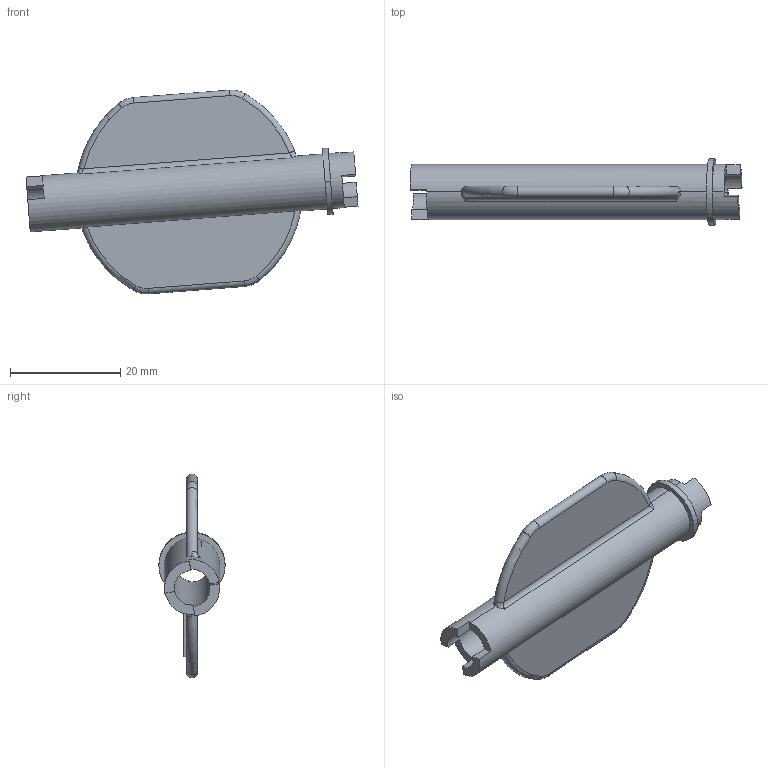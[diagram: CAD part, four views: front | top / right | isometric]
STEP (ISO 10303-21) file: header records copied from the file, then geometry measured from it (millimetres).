
FILE_DESCRIPTION((''),'2;1');
FILE_NAME('0000237104_PRT','2025-11-12T18:35:43',('Wyndorps'),(''),'CREO PARAMETRIC BY PTC INC, 2025010','CREO PARAMETRIC BY PTC INC, 2025010','');
FILE_SCHEMA(('CONFIG_CONTROL_DESIGN'));
Length unit declared in the file: millimetre
Products named in the file (1): 0000237104_PRT
Bounding box: 60.14 x 12 x 36.91 mm (x, y, z)
Volume: 4295.9 mm3; surface area: 4844.2 mm2
Topology: 1 solids, 1 shells, 110 faces, 295 edges, 194 vertices
Faces by surface type: plane 59, extrusion 23, cylinder 16, torus 8, bspline 4
Entity records: 3936 total; most frequent: CARTESIAN_POINT 1222, ORIENTED_EDGE 590, DIRECTION 482, EDGE_CURVE 295, VERTEX_POINT 194, VECTOR 188, LINE 165, AXIS2_PLACEMENT_3D 147
